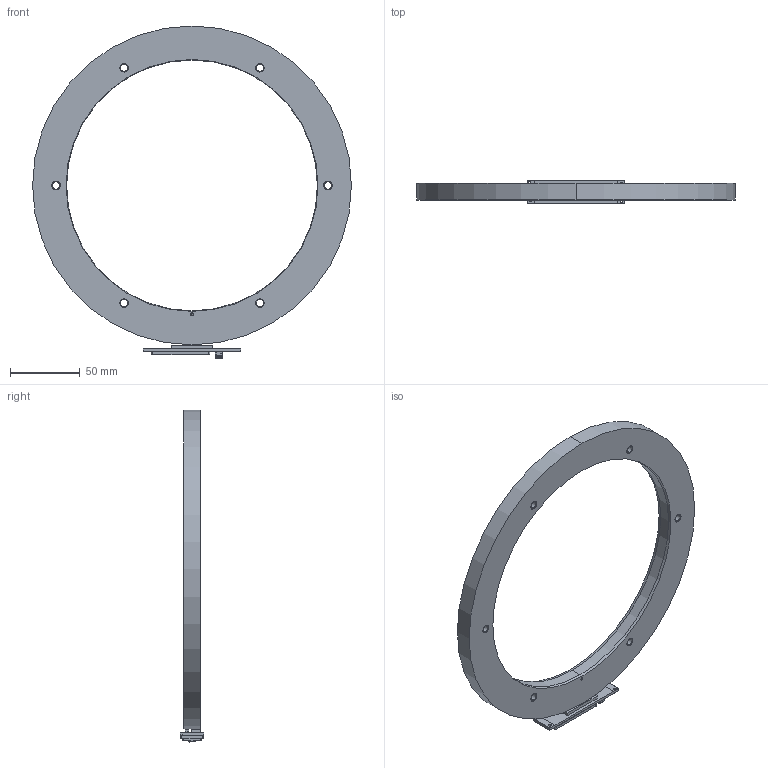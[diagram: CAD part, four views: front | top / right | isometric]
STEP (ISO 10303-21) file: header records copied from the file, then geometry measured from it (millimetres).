
FILE_DESCRIPTION (( 'STEP AP214' ), '1' );
FILE_NAME ('DBRxHx_SAR229_exposed.STEP', '2024-02-02T11:30:52', ( '' ), ( '' ), 'SwSTEP 2.0', 'SolidWorks 2022', '' );
FILE_SCHEMA (( 'AUTOMOTIVE_DESIGN' ));
Length unit declared in the file: millimetre
Products named in the file (1): DBRxHx_SAR229_exposed
Bounding box: 228.8 x 17 x 238.22 mm (x, y, z)
Volume: 183467.1 mm3; surface area: 51760.2 mm2
Topology: 1 solids, 2 shells, 1589 faces, 4418 edges, 2925 vertices
Faces by surface type: plane 1213, bspline 203, cylinder 133, cone 36, sphere 4
Entity records: 78661 total; most frequent: CARTESIAN_POINT 25116, ORIENTED_EDGE 8814, DIRECTION 5167, EDGE_CURVE 4407, VERTEX_POINT 2924, B_SPLINE_CURVE_WITH_KNOTS 2158, VECTOR 2105, LINE 2105
